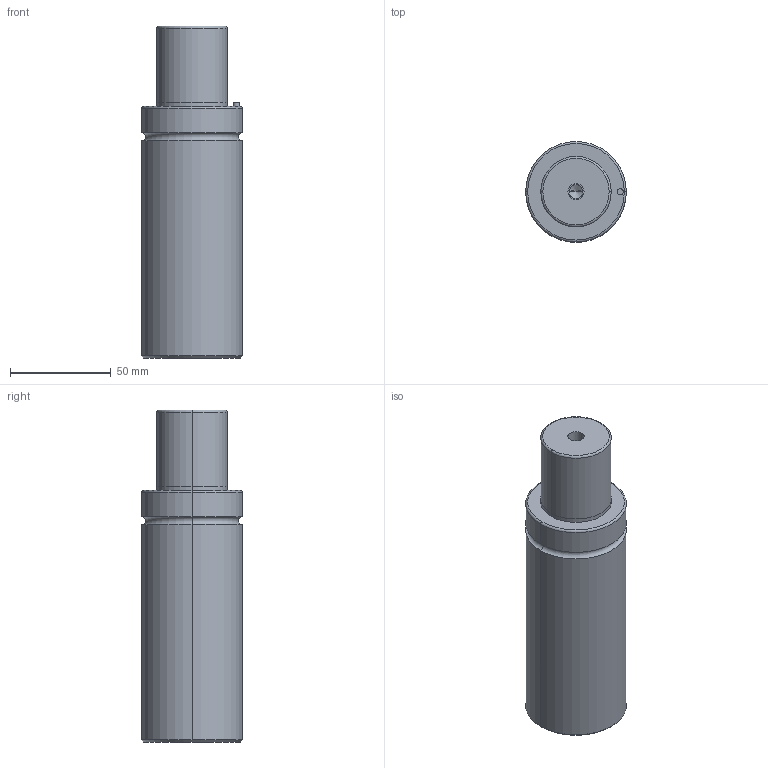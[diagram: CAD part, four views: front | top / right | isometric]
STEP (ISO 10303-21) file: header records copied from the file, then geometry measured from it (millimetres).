
FILE_DESCRIPTION(/* description */ (''),/* implementation_level */ '2;1');
FILE_NAME(/* name */ '3d_gsm50-38_03934_r00.stp',/* time_stamp */ '2011-01-10T14:15:15+09:00',/* author */ ('MISUMI'),/* organization */ (''),/* preprocessor_version */ 'ST-DEVELOPER v11',/* originating_system */ 'UGS - NX 5.0',/* authorisation */ '');
FILE_SCHEMA (('CONFIG_CONTROL_DESIGN'));
Length unit declared in the file: millimetre
Products named in the file (1): 3d_gsm50-38_03934_r00
Bounding box: 50 x 50 x 165 mm (x, y, z)
Volume: 279975.7 mm3; surface area: 29521.6 mm2
Topology: 1 solids, 1 shells, 50 faces, 106 edges, 60 vertices
Faces by surface type: cylinder 26, cone 10, plane 8, torus 6
Entity records: 1382 total; most frequent: DIRECTION 262, CARTESIAN_POINT 209, ORIENTED_EDGE 196, AXIS2_PLACEMENT_3D 113, EDGE_CURVE 98, CIRCLE 62, EDGE_LOOP 60, VERTEX_POINT 60
